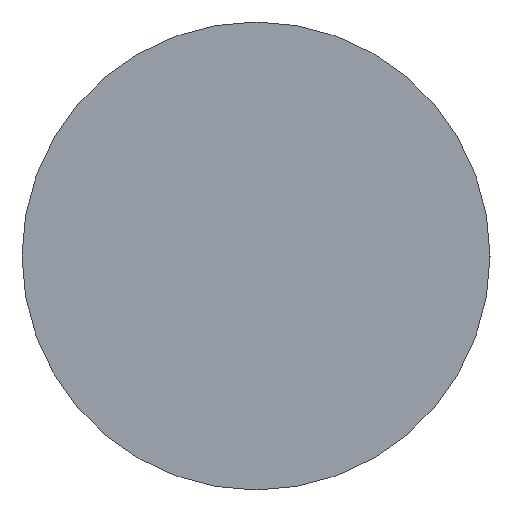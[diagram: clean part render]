
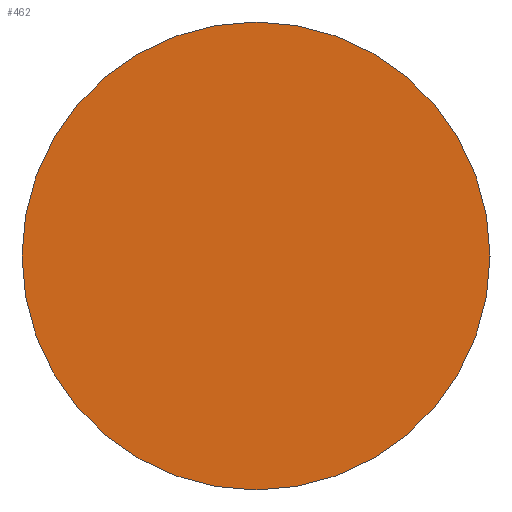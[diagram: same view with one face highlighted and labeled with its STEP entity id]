
A CAD part, left-side view. The second image highlights one B-rep face of the part: STEP entity #462.
In plain terms, the highlighted planar face has unit normal (-1, 0, 0).
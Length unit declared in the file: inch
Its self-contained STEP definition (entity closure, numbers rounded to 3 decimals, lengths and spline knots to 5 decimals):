
#7 = VERTEX_POINT ( 'NONE', #115 ) ;
#12 = CARTESIAN_POINT ( 'NONE',  ( -4., 0., 0. ) ) ;
#34 = EDGE_CURVE ( 'NONE', #232, #7, #392, .T. ) ;
#52 = DIRECTION ( 'NONE',  ( 0., 0., 1. ) ) ;
#65 = FACE_OUTER_BOUND ( 'NONE', #446, .T. ) ;
#97 = PLANE ( 'NONE',  #218 ) ;
#112 = CARTESIAN_POINT ( 'NONE',  ( -4., 0., 0. ) ) ;
#115 = CARTESIAN_POINT ( 'NONE',  ( -4., 0., 0.375 ) ) ;
#118 = DIRECTION ( 'NONE',  ( -1., 0., 0. ) ) ;
#125 = DIRECTION ( 'NONE',  ( -1., 0., 0. ) ) ;
#139 = EDGE_CURVE ( 'NONE', #7, #232, #430, .T. ) ;
#169 = ORIENTED_EDGE ( 'NONE', *, *, #139, .T. ) ;
#218 = AXIS2_PLACEMENT_3D ( 'NONE', #503, #298, #338 ) ;
#232 = VERTEX_POINT ( 'NONE', #504 ) ;
#264 = AXIS2_PLACEMENT_3D ( 'NONE', #112, #118, #277 ) ;
#277 = DIRECTION ( 'NONE',  ( 0., 0., 1. ) ) ;
#298 = DIRECTION ( 'NONE',  ( 1., 0., 0. ) ) ;
#326 = ORIENTED_EDGE ( 'NONE', *, *, #34, .T. ) ;
#338 = DIRECTION ( 'NONE',  ( 0., 0., -1. ) ) ;
#380 = AXIS2_PLACEMENT_3D ( 'NONE', #12, #125, #52 ) ;
#392 = CIRCLE ( 'NONE', #264, 0.375 ) ;
#430 = CIRCLE ( 'NONE', #380, 0.375 ) ;
#446 = EDGE_LOOP ( 'NONE', ( #169, #326 ) ) ;
#462 = ADVANCED_FACE ( 'NONE', ( #65 ), #97, .F. ) ;
#503 = CARTESIAN_POINT ( 'NONE',  ( -4., 0.375, 0. ) ) ;
#504 = CARTESIAN_POINT ( 'NONE',  ( -4., 0., -0.375 ) ) ;
